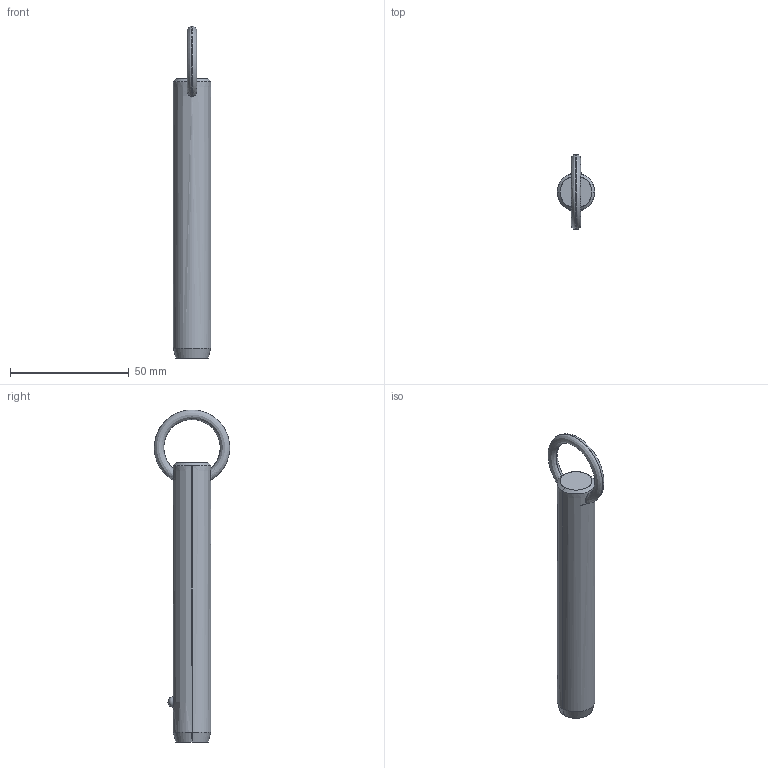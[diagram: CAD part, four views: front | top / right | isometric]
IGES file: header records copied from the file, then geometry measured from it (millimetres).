
Start section: SolidWorks IGES file using analytic representation for surfaces
Global section: file name: C:\Users\liam_\OneDrive\Documents\WORK\Work for WixRoyd\Job Files\J-00019 - Matt Davis CAD Checking\04. CAD Drawings\automotion20190605\P1250.2_v2\P1250.2_v2_20190729_IGES\P1250.062-350.igs; native system: SolidWorks 2017; preprocessor: SolidWorks 2017; author: liam_; date: 190729.233538; units: millimetre
Bounding box: 15.8 x 31.69 x 139.59 mm (x, y, z)
Surface area: 7001.3 mm2 (no closed solid volume)
Topology: 0 solids, 0 shells, 12 faces, 292 edges, 290 vertices
Faces by surface type: revolution 8, bspline 4
